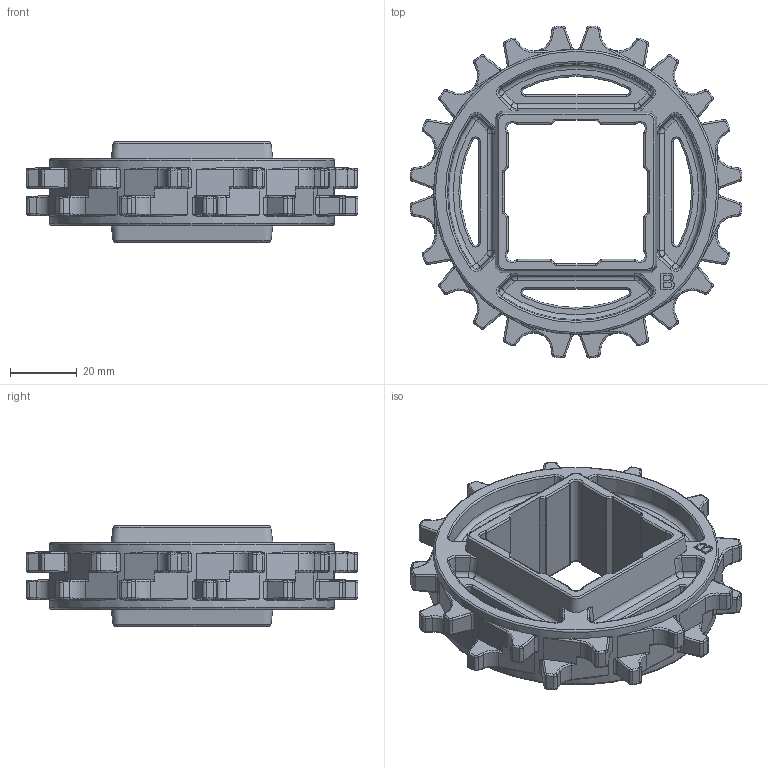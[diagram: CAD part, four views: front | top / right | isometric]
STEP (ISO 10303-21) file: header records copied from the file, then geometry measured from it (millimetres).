
FILE_DESCRIPTION(/* description */ (''),/* implementation_level */ '2;1');
FILE_NAME(/* name */ 'HS-2500A-12T-2R.stp',/* time_stamp */ '2023-02-01T10:39:52+08:00',/* author */ (''),/* organization */ (''),/* preprocessor_version */ 'ST-DEVELOPER v15',/* originating_system */ 'SIEMENS PLM Software NX 8.5',/* authorisation */ '');
FILE_SCHEMA (('AP203_CONFIGURATION_CONTROLLED_3D_DESIGN_OF_MECHANICAL_PARTS_AND_ASSEMBLIES_MIM_LF { 1 0 10303 403 2 1 2}'));
Length unit declared in the file: millimetre
Products named in the file (1): Admi25843EB0dkc1
Bounding box: 99.14 x 99.14 x 30 mm (x, y, z)
Volume: 62974.4 mm3; surface area: 27956.1 mm2
Topology: 1 solids, 1 shells, 1016 faces, 2421 edges, 1392 vertices
Faces by surface type: cylinder 381, bspline 316, plane 179, torus 78, sphere 32, cone 24, extrusion 6
Full cylindrical faces by diameter (mm): 85.038 x1
Entity records: 34730 total; most frequent: CARTESIAN_POINT 11854, DIRECTION 4866, ORIENTED_EDGE 4756, EDGE_CURVE 2378, AXIS2_PLACEMENT_3D 2031, VERTEX_POINT 1388, EDGE_LOOP 1050, ADVANCED_FACE 1016
